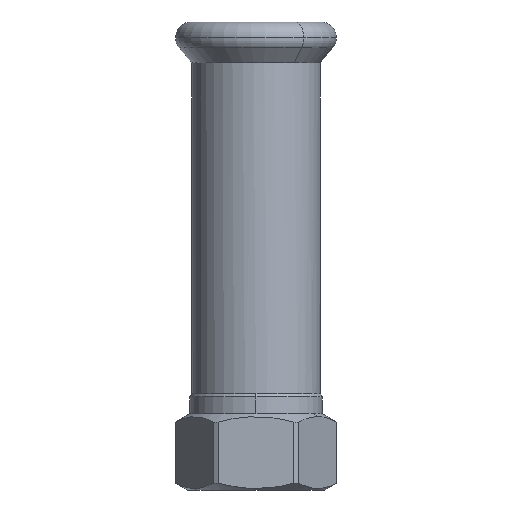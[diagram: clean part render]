
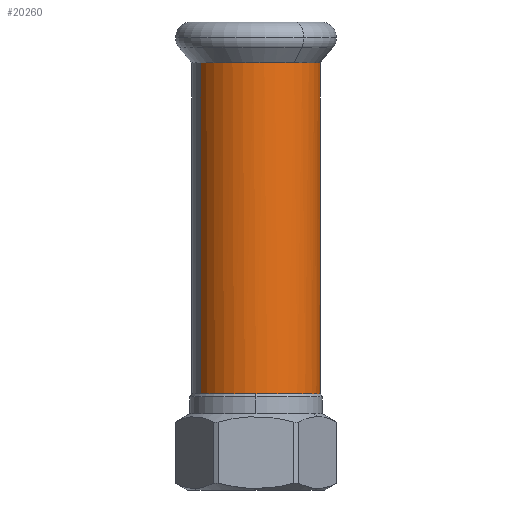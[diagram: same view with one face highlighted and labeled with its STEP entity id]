
A CAD part, left-side view. The second image highlights one B-rep face of the part: STEP entity #20260.
In plain terms, the highlighted cylindrical face has radius 12.65 mm (diameter 25.3 mm), a partial arc.
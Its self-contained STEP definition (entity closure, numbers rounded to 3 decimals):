
#60=CARTESIAN_POINT('',(49.067,47.456,
74.319));
#70=DIRECTION('',(0.,0.,1.));
#80=DIRECTION('',(0.805,0.593,
0.));
#90=AXIS2_PLACEMENT_3D('',#60,#70,#80);
#100=CIRCLE('',#90,12.65);
#110=CARTESIAN_POINT('',(38.886,39.949,
74.319));
#120=VERTEX_POINT('',#110);
#130=CARTESIAN_POINT('',(55.392,36.501,74.319));
#140=VERTEX_POINT('',#130);
#150=EDGE_CURVE('',#120,#140,#100,.T.);
#470=CARTESIAN_POINT('',(49.067,47.456,40.289));
#480=DIRECTION('',(0.,0.,-1.));
#490=DIRECTION('',(-0.5,0.866,0.));
#500=AXIS2_PLACEMENT_3D('',#470,#480,#490);
#510=CYLINDRICAL_SURFACE('',#500,12.65);
#520=CARTESIAN_POINT('',(42.742,58.412,74.319));
#530=VERTEX_POINT('',#520);
#560=CARTESIAN_POINT('',(42.742,58.412,40.289));
#570=DIRECTION('',(0.,0.,-1.));
#580=VECTOR('',#570,1.);
#590=LINE('',#560,#580);
#600=CARTESIAN_POINT('',(42.742,58.412,9.275));
#610=VERTEX_POINT('',#600);
#620=EDGE_CURVE('',#530,#610,#590,.T.);
#640=CARTESIAN_POINT('',(49.067,47.456,
9.275));
#650=DIRECTION('',(0.,0.,-1.));
#660=DIRECTION('',(-1.,0.,0.));
#670=AXIS2_PLACEMENT_3D('',#640,#650,#660);
#680=CIRCLE('',#670,12.65);
#730=CARTESIAN_POINT('',(55.392,36.501,9.275));
#740=VERTEX_POINT('',#730);
#770=CARTESIAN_POINT('',(55.392,36.501,40.289));
#780=DIRECTION('',(0.,0.,-1.));
#790=VECTOR('',#780,1.);
#800=LINE('',#770,#790);
#810=EDGE_CURVE('',#140,#740,#800,.T.);
#19660=CARTESIAN_POINT('',(36.417,47.456,9.275));
#19670=VERTEX_POINT('',#19660);
#19700=EDGE_CURVE('',#740,#19670,#680,.T.);
#20160=EDGE_CURVE('',#19670,#610,#680,.T.);
#20170=ORIENTED_EDGE('',*,*,#20160,.F.);
#20180=ORIENTED_EDGE('',*,*,#620,.T.);
#20190=EDGE_CURVE('',#530,#120,#100,.T.);
#20200=ORIENTED_EDGE('',*,*,#20190,.F.);
#20210=ORIENTED_EDGE('',*,*,#150,.F.);
#20220=ORIENTED_EDGE('',*,*,#810,.F.);
#20230=ORIENTED_EDGE('',*,*,#19700,.F.);
#20240=EDGE_LOOP('',(#20230,#20220,#20210,#20200,#20180,#20170));
#20250=FACE_OUTER_BOUND('',#20240,.T.);
#20260=ADVANCED_FACE('',(#20250),#510,.T.);
